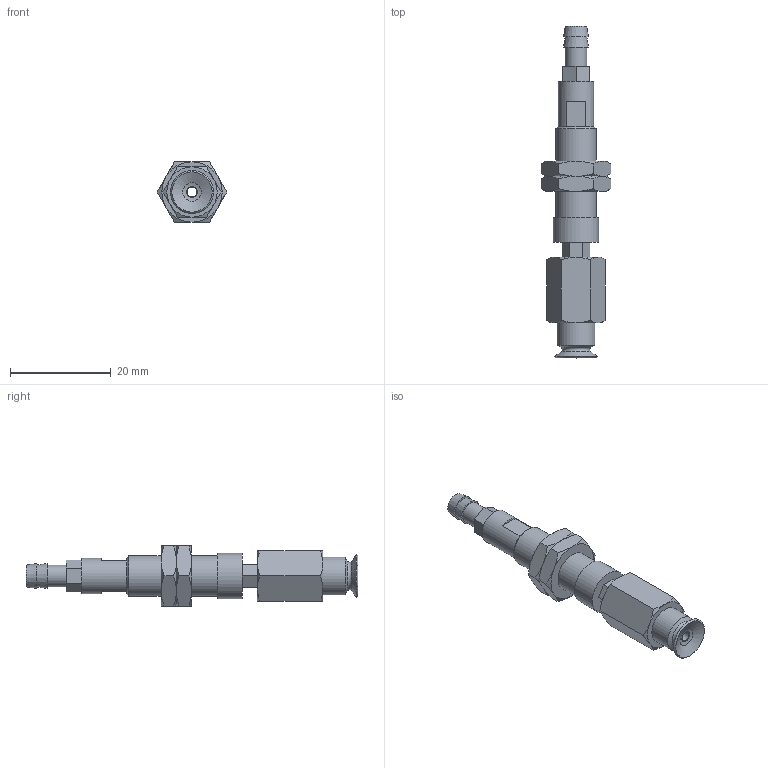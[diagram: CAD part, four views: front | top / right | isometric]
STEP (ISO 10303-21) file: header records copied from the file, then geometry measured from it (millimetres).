
FILE_DESCRIPTION(('STEP AP203'),'1');
FILE_NAME('-T.stp','2025-08-27T03:03:31',(' '),(' '),'Spatial InterOp 3D',' ',' ');
FILE_SCHEMA(('CONFIG_CONTROL_DESIGN'));
Length unit declared in the file: millimetre
Products named in the file (7): BNABPFTH-8A-3-※-T; ADAPTER; NAPATH-10A-3--M; Nut-8A-3-h; NAPFTH-8A-3-FBODY; BPFG-8A-※; T
Assembly tree (7 placements, depth 2):
  BNABPFTH-8A-3-※-T
    ADAPTER
    NAPATH-10A-3--M
    Nut-8A-3-h  x2
    NAPFTH-8A-3-FBODY
    BPFG-8A-※
    T
Bounding box: 13.86 x 66 x 12 mm (x, y, z)
Volume: 3448.1 mm3; surface area: 4269.8 mm2
Topology: 7 solids, 7 shells, 141 faces, 301 edges, 184 vertices
Faces by surface type: plane 64, cone 49, cylinder 17, torus 10, bspline 1
Full cylindrical faces by diameter (mm): 2 x3, 3 x1, 4 x2, 4.134 x1, 4.3 x1, 5 x1, 6 x2, 7 x1, 7.188 x2, 7.5 x1, 8 x1, 9 x1
Entity records: 3485 total; most frequent: CARTESIAN_POINT 795, DIRECTION 490, ORIENTED_EDGE 412, AXIS2_PLACEMENT_3D 207, EDGE_CURVE 206, EDGE_LOOP 178, VERTEX_POINT 148, FACE_OUTER_BOUND 145
